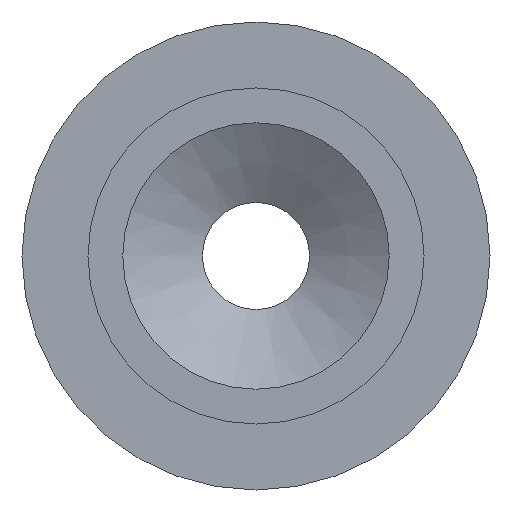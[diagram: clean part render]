
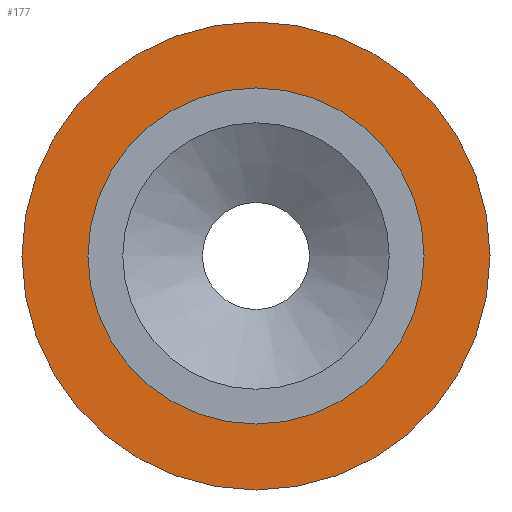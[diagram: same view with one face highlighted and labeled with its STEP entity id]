
A CAD part, left-side view. The second image highlights one B-rep face of the part: STEP entity #177.
In plain terms, the highlighted planar face has unit normal (-1, 0, 0).
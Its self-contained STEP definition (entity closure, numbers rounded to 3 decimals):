
#13=PLANE($,#202);
#32=FACE_BOUND($,#69,.T.);
#52=FACE_OUTER_BOUND($,#68,.T.);
#68=EDGE_LOOP($,(#148));
#69=EDGE_LOOP($,(#149));
#96=CIRCLE($,#200,1.715);
#98=CIRCLE($,#203,2.388);
#112=VERTEX_POINT($,#303);
#114=VERTEX_POINT($,#308);
#128=EDGE_CURVE($,#112,#112,#96,.T.);
#130=EDGE_CURVE($,#114,#114,#98,.T.);
#148=ORIENTED_EDGE($,*,*,#130,.F.);
#149=ORIENTED_EDGE($,*,*,#128,.T.);
#177=ADVANCED_FACE($,(#52,#32),#13,.T.);
#200=AXIS2_PLACEMENT_3D($,#304,#242,#243);
#202=AXIS2_PLACEMENT_3D($,#307,#246,#247);
#203=AXIS2_PLACEMENT_3D($,#309,#248,#249);
#242=DIRECTION('center_axis',(1.,0.,0.));
#243=DIRECTION('ref_axis',(0.,1.,0.));
#246=DIRECTION('center_axis',(-1.,0.,0.));
#247=DIRECTION('ref_axis',(0.,0.,1.));
#248=DIRECTION('center_axis',(1.,0.,0.));
#249=DIRECTION('ref_axis',(0.,1.,0.));
#303=CARTESIAN_POINT('',(2.769,1.715,0.));
#304=CARTESIAN_POINT('Origin',(2.769,0.,0.));
#307=CARTESIAN_POINT('Origin',(2.769,2.051,0.));
#308=CARTESIAN_POINT('',(2.769,2.388,0.));
#309=CARTESIAN_POINT('Origin',(2.769,0.,0.));
